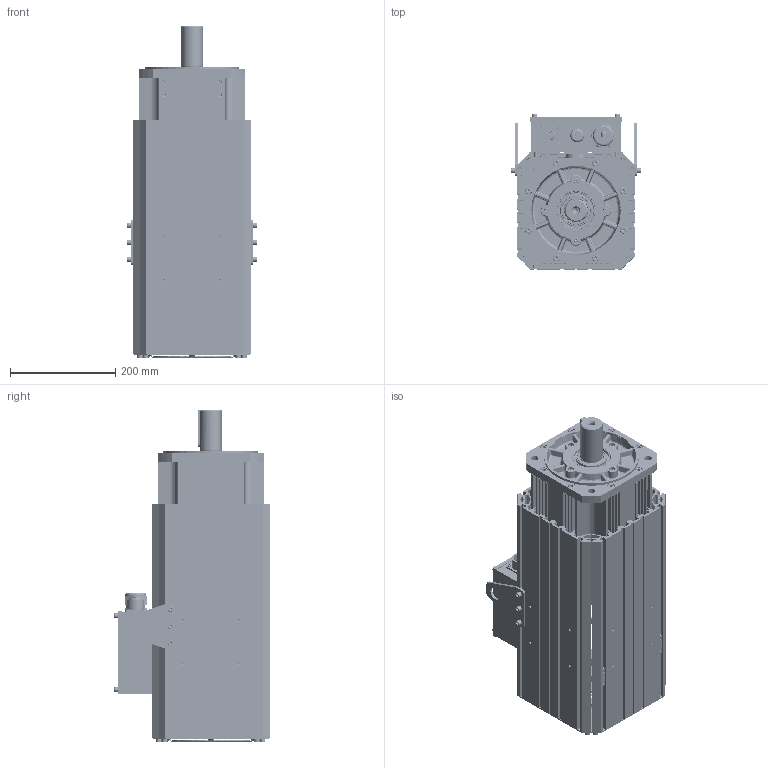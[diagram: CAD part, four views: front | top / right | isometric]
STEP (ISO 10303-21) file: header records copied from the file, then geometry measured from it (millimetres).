
FILE_DESCRIPTION (( 'STEP AP214' ), '1' );
FILE_NAME ('VM7-M20D-01515-D2FN.STEP', '2022-04-02T01:55:11', ( '' ), ( '' ), 'SwSTEP 2.0', 'SolidWorks 2014', '' );
FILE_SCHEMA (( 'AUTOMOTIVE_DESIGN' ));
Length unit declared in the file: millimetre
Products named in the file (3): 翋极ㄗVM7-M20Dㄘ; VM7-M20D-01515-D2FN; 俋褲ㄗVM7-M20Dㄘ
Assembly tree (2 placements, depth 2):
  VM7-M20D-01515-D2FN
    翋极ㄗVM7-M20Dㄘ
    俋褲ㄗVM7-M20Dㄘ
Bounding box: 246.2 x 294.7 x 630 mm (x, y, z)
Volume: 2134379.2 mm3; surface area: 2783348.4 mm2
Topology: 45 solids, 183 shells, 5660 faces, 14472 edges, 9117 vertices
Faces by surface type: plane 3221, cylinder 1323, cone 587, bspline 529
Entity records: 187119 total; most frequent: CARTESIAN_POINT 50233, ORIENTED_EDGE 28442, DIRECTION 27688, EDGE_CURVE 14230, AXIS2_PLACEMENT_3D 9527, VERTEX_POINT 9117, VECTOR 8634, LINE 8634
